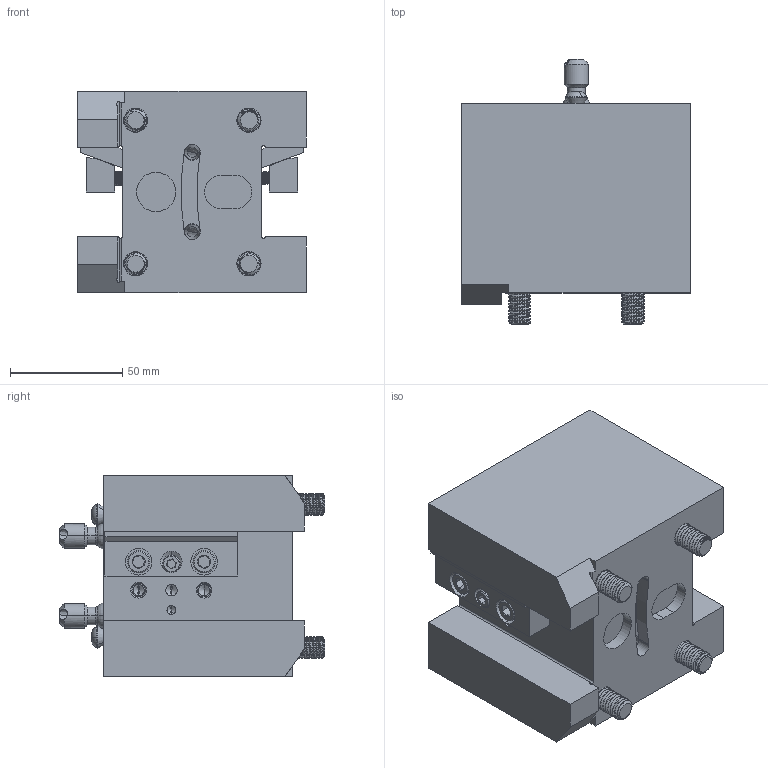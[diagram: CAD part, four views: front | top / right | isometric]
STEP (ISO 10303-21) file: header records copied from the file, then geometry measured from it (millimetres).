
FILE_DESCRIPTION (( 'STEP AP203' ), '1' );
FILE_NAME ('04-0802.STEP', '2022-07-12T16:42:37', ( '' ), ( '' ), 'SwSTEP 2.0', 'SolidWorks 2021', '' );
FILE_SCHEMA (( 'CONFIG_CONTROL_DESIGN' ));
Length unit declared in the file: inch
Products named in the file (13): 04-0802; 10000015933; 57-0026; 40-0032_40-0032; 30-5847; 40-1645; 20-3797; 22-8749; 10000016468; 40-1626_40-1626; 40-0003_40-0003; 20-3796; 20-5315
Assembly tree (26 placements, depth 3):
  04-0802
    30-5847
      20-5315
      57-0026  x2
      22-8749  x2
      40-0003_40-0003  x2
      20-3796  x2
      20-3797  x2
      40-1626_40-1626  x4
      40-1645  x2
      40-0032_40-0032  x4
      10000015933  x2
      10000016468  x2
Bounding box: 102.11 x 118.31 x 89.92 mm (x, y, z)
Volume: 643246.3 mm3; surface area: 116014.7 mm2
Topology: 25 solids, 25 shells, 1446 faces, 3819 edges, 2444 vertices
Faces by surface type: cylinder 963, cone 222, plane 217, bspline 24, torus 20
Entity records: 26451 total; most frequent: CARTESIAN_POINT 11396, ORIENTED_EDGE 2996, DIRECTION 2615, EDGE_CURVE 1498, AXIS2_PLACEMENT_3D 1008, VERTEX_POINT 964, EDGE_LOOP 664, LINE 599
